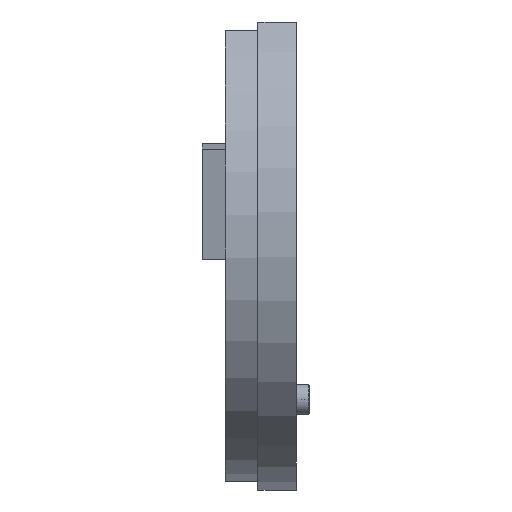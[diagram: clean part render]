
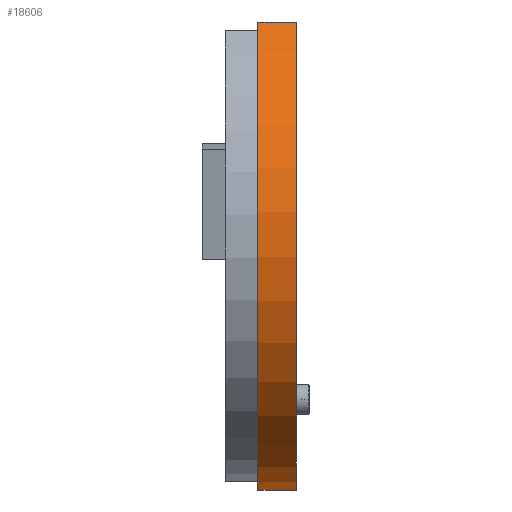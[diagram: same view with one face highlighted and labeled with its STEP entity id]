
A CAD part, left-side view. The second image highlights one B-rep face of the part: STEP entity #18606.
In plain terms, the highlighted cylindrical face has radius 30.201 mm (diameter 60.401 mm), a partial arc.
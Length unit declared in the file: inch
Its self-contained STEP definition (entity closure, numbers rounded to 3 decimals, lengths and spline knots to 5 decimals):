
#37 = AXIS2_PLACEMENT_3D ( 'NONE', #24688, #11506, #20543 ) ;
#52 = ORIENTED_EDGE ( 'NONE', *, *, #27966, .T. ) ;
#570 = VERTEX_POINT ( 'NONE', #15644 ) ;
#1149 = ORIENTED_EDGE ( 'NONE', *, *, #25920, .T. ) ;
#1191 = EDGE_CURVE ( 'NONE', #14373, #26016, #20951, .T. ) ;
#2884 = DIRECTION ( 'NONE',  ( 0., 1., 0. ) ) ;
#4484 = CARTESIAN_POINT ( 'NONE',  ( -0.70288, 0.175, 0.959 ) ) ;
#4522 = FACE_OUTER_BOUND ( 'NONE', #14465, .T. ) ;
#4632 = CARTESIAN_POINT ( 'NONE',  ( 0., 0.175, 0. ) ) ;
#5408 = VECTOR ( 'NONE', #17752, 39.37008 ) ;
#6852 = DIRECTION ( 'NONE',  ( 0., -1., 0. ) ) ;
#9027 = CYLINDRICAL_SURFACE ( 'NONE', #20163, 1.189 ) ;
#11091 = ORIENTED_EDGE ( 'NONE', *, *, #23132, .F. ) ;
#11506 = DIRECTION ( 'NONE',  ( 0., 1., 0. ) ) ;
#12057 = DIRECTION ( 'NONE',  ( 0., -1., 0. ) ) ;
#14180 = CARTESIAN_POINT ( 'NONE',  ( 0.70288, 0.175, 0.959 ) ) ;
#14373 = VERTEX_POINT ( 'NONE', #4484 ) ;
#14465 = EDGE_LOOP ( 'NONE', ( #52, #17533, #11091, #1149 ) ) ;
#15644 = CARTESIAN_POINT ( 'NONE',  ( 0.70288, 0.175, 0.959 ) ) ;
#16862 = VERTEX_POINT ( 'NONE', #27074 ) ;
#17533 = ORIENTED_EDGE ( 'NONE', *, *, #1191, .F. ) ;
#17752 = DIRECTION ( 'NONE',  ( 0., -1., 0. ) ) ;
#17943 = CARTESIAN_POINT ( 'NONE',  ( -0.70288, 0.175, 0.959 ) ) ;
#18535 = DIRECTION ( 'NONE',  ( 0., 0., -1. ) ) ;
#18606 = ADVANCED_FACE ( 'NONE', ( #4522 ), #9027, .T. ) ;
#19074 = CARTESIAN_POINT ( 'NONE',  ( -0.70288, 0., 0.959 ) ) ;
#19978 = CIRCLE ( 'NONE', #24801, 1.189 ) ;
#20163 = AXIS2_PLACEMENT_3D ( 'NONE', #4632, #6852, #26741 ) ;
#20543 = DIRECTION ( 'NONE',  ( 0., 0., -1. ) ) ;
#20570 = VECTOR ( 'NONE', #12057, 39.37008 ) ;
#20759 = CARTESIAN_POINT ( 'NONE',  ( 0., 0.175, 0. ) ) ;
#20951 = LINE ( 'NONE', #17943, #5408 ) ;
#22971 = LINE ( 'NONE', #14180, #20570 ) ;
#23132 = EDGE_CURVE ( 'NONE', #570, #14373, #19978, .T. ) ;
#24688 = CARTESIAN_POINT ( 'NONE',  ( 0., 0., 0. ) ) ;
#24801 = AXIS2_PLACEMENT_3D ( 'NONE', #20759, #2884, #18535 ) ;
#25920 = EDGE_CURVE ( 'NONE', #570, #16862, #22971, .T. ) ;
#26016 = VERTEX_POINT ( 'NONE', #19074 ) ;
#26741 = DIRECTION ( 'NONE',  ( 0., 0., 1. ) ) ;
#27074 = CARTESIAN_POINT ( 'NONE',  ( 0.70288, 0., 0.959 ) ) ;
#27752 = CIRCLE ( 'NONE', #37, 1.189 ) ;
#27966 = EDGE_CURVE ( 'NONE', #16862, #26016, #27752, .T. ) ;
